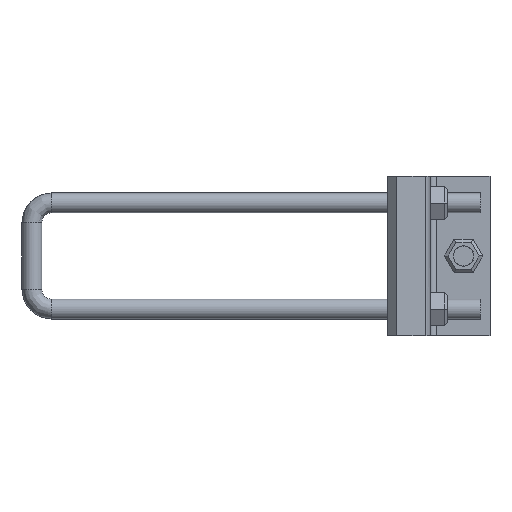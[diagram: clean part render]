
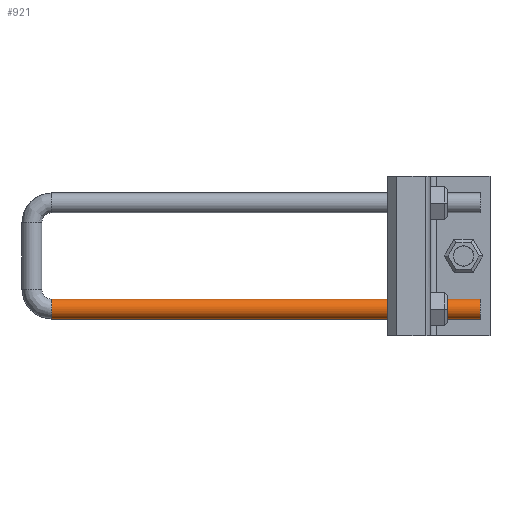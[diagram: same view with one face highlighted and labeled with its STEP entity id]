
A CAD part, left-side view. The second image highlights one B-rep face of the part: STEP entity #921.
In plain terms, the highlighted cylindrical face has radius 4.763 mm (diameter 9.525 mm), a partial arc.
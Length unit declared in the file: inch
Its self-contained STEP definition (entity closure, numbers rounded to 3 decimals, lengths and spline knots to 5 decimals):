
#921=ADVANCED_FACE('',(#2214),#2215,.T.);
#1155=EDGE_CURVE('',#2554,#2555,#2556,.T.);
#2214=FACE_OUTER_BOUND('',#4340,.T.);
#2215=CYLINDRICAL_SURFACE('',#4341,0.1875);
#2554=VERTEX_POINT('',#4975);
#2555=VERTEX_POINT('',#4976);
#2556=CIRCLE('',#4977,0.1875);
#4340=EDGE_LOOP('',(#6830,#6831,#6832,#6833));
#4341=AXIS2_PLACEMENT_3D('',#6834,#6835,#6836);
#4975=CARTESIAN_POINT('',(-3.87306,8.2507,0.6875));
#4976=CARTESIAN_POINT('',(-3.87306,8.2507,0.3125));
#4977=AXIS2_PLACEMENT_3D('',#7207,#7208,#7209);
#6830=ORIENTED_EDGE('',*,*,#8205,.F.);
#6831=ORIENTED_EDGE('',*,*,#8119,.T.);
#6832=ORIENTED_EDGE('',*,*,#8206,.F.);
#6833=ORIENTED_EDGE('',*,*,#1155,.T.);
#6834=CARTESIAN_POINT('',(-3.87306,5.06269,0.5));
#6835=DIRECTION('',(-0.0,-1.0,-0.0));
#6836=DIRECTION('',(0.0,0.0,-1.0));
#7207=CARTESIAN_POINT('',(-3.87306,8.2507,0.5));
#7208=DIRECTION('',(0.0,-1.0,0.0));
#7209=DIRECTION('',(0.0,0.0,-1.0));
#8119=EDGE_CURVE('',#8372,#8373,#8374,.T.);
#8205=EDGE_CURVE('',#8372,#2555,#8484,.T.);
#8206=EDGE_CURVE('',#2554,#8373,#8485,.T.);
#8372=VERTEX_POINT('',#8664);
#8373=VERTEX_POINT('',#8665);
#8374=CIRCLE('',#8666,0.1875);
#8484=LINE('',#8804,#8805);
#8485=LINE('',#8806,#8807);
#8664=CARTESIAN_POINT('',(-3.87306,0.18769,0.3125));
#8665=CARTESIAN_POINT('',(-3.87306,0.18769,0.6875));
#8666=AXIS2_PLACEMENT_3D('',#8977,#8978,#8979);
#8804=CARTESIAN_POINT('',(-3.87306,5.06269,0.3125));
#8805=VECTOR('',#9061,1.0);
#8806=CARTESIAN_POINT('',(-3.87306,5.06269,0.6875));
#8807=VECTOR('',#9062,1.0);
#8977=CARTESIAN_POINT('',(-3.87306,0.18769,0.5));
#8978=DIRECTION('',(0.0,1.0,0.0));
#8979=DIRECTION('',(0.0,0.0,-1.0));
#9061=DIRECTION('',(0.0,1.0,0.0));
#9062=DIRECTION('',(-0.0,-1.0,-0.0));
